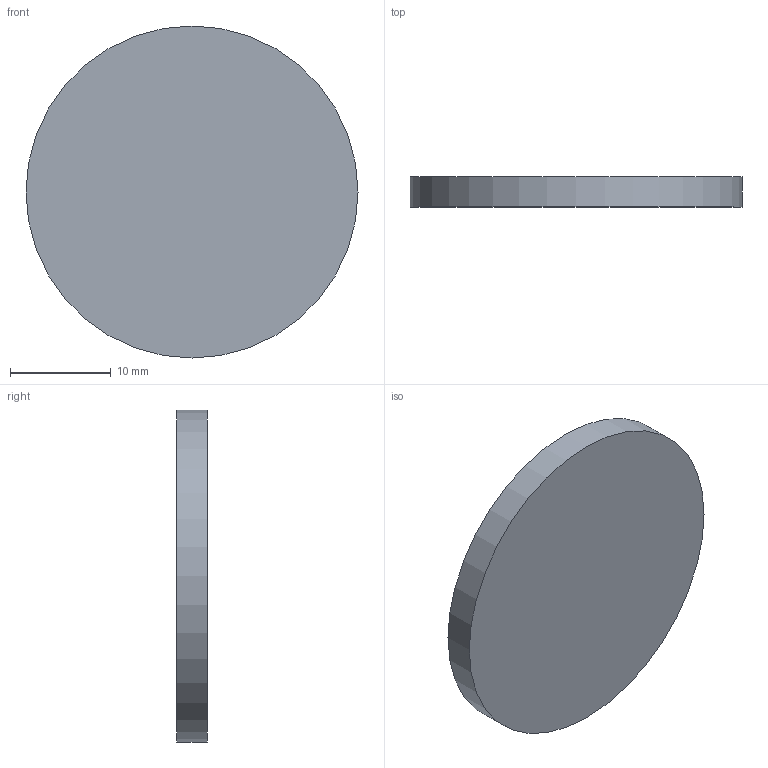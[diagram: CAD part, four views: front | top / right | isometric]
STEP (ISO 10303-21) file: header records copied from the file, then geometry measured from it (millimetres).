
FILE_DESCRIPTION(('Open CASCADE Model'),'2;1');
FILE_NAME('acrylic-contact-window.step','2026-11-14T14:29:29',('Author') ,('Open CASCADE'),'Open CASCADE STEP processor 8.0','Open CASCADE 8.0' ,'Unknown');
FILE_SCHEMA(('AP242_MANAGED_MODEL_BASED_3D_ENGINEERING_MIM_LF {1 0 10303 442 1 1 4 }' ));
Length unit declared in the file: millimetre
Products named in the file (1): Acrylic Contact Window
Bounding box: 33 x 3 x 33 mm (x, y, z)
Volume: 2565.9 mm3; surface area: 2021.6 mm2
Topology: 1 solids, 1 shells, 3 faces, 3 edges, 2 vertices
Faces by surface type: plane 2, cylinder 1
Full cylindrical faces by diameter (mm): 33 x1
Entity records: 117 total; most frequent: DIRECTION 19, CARTESIAN_POINT 15, AXIS2_PLACEMENT_3D 6, ORIENTED_EDGE 6, PCURVE 6, DEFINITIONAL_REPRESENTATION 6, LINE 5, VECTOR 5
